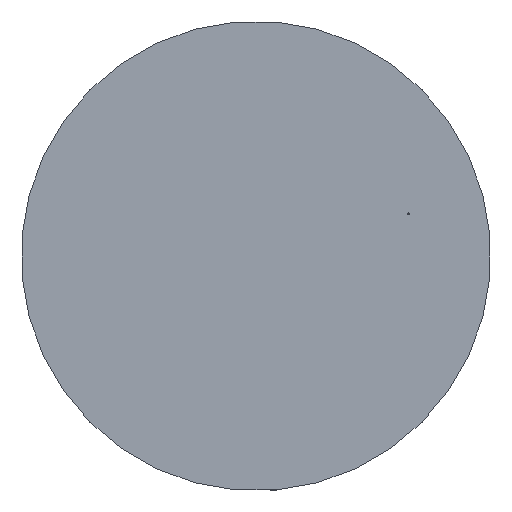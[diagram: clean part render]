
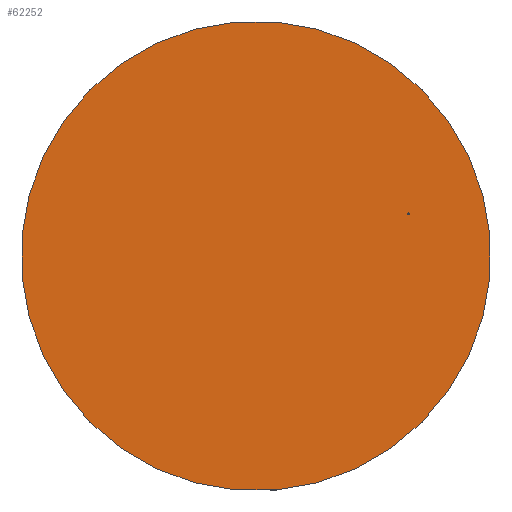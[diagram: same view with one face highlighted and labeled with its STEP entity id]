
A CAD part, top view. The second image highlights one B-rep face of the part: STEP entity #62252.
In plain terms, the highlighted planar face has unit normal (0, 0, 1).
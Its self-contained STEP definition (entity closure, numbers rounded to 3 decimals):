
#3419=FACE_BOUND('',#12342,.T.);
#5207=PLANE('',#69097);
#8484=FACE_OUTER_BOUND('',#12341,.T.);
#12341=EDGE_LOOP('',(#57910));
#12342=EDGE_LOOP('',(#57911));
#25327=CIRCLE('',#69092,1.7);
#25329=CIRCLE('',#69096,400.);
#31297=VERTEX_POINT('',#159749);
#31299=VERTEX_POINT('',#159756);
#40167=EDGE_CURVE('',#31297,#31297,#25327,.T.);
#40169=EDGE_CURVE('',#31299,#31299,#25329,.T.);
#57910=ORIENTED_EDGE('',*,*,#40169,.T.);
#57911=ORIENTED_EDGE('',*,*,#40167,.T.);
#62252=ADVANCED_FACE('',(#8484,#3419),#5207,.T.);
#69092=AXIS2_PLACEMENT_3D('',#159751,#85851,#85852);
#69096=AXIS2_PLACEMENT_3D('',#159757,#85859,#85860);
#69097=AXIS2_PLACEMENT_3D('',#159759,#85862,#85863);
#85851=DIRECTION('center_axis',(0.,0.,-1.));
#85852=DIRECTION('ref_axis',(-1.,0.,0.));
#85859=DIRECTION('center_axis',(0.,0.,1.));
#85860=DIRECTION('ref_axis',(1.,0.,0.));
#85862=DIRECTION('center_axis',(0.,0.,1.));
#85863=DIRECTION('ref_axis',(1.,0.,0.));
#159749=CARTESIAN_POINT('',(235.928,-132.936,10.));
#159751=CARTESIAN_POINT('Origin',(234.228,-132.936,10.));
#159756=CARTESIAN_POINT('',(-400.,0.,10.));
#159757=CARTESIAN_POINT('Origin',(0.,0.,10.));
#159759=CARTESIAN_POINT('Origin',(0.,0.,10.));
